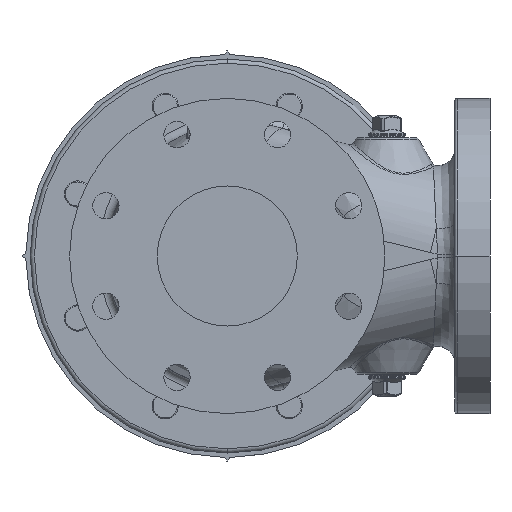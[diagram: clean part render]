
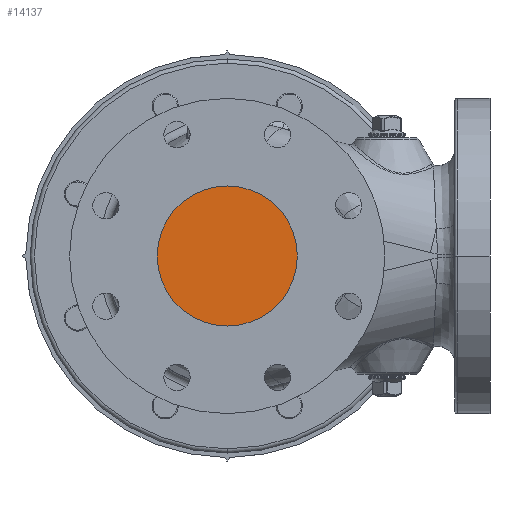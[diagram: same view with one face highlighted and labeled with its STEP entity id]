
A CAD part, front view. The second image highlights one B-rep face of the part: STEP entity #14137.
In plain terms, the highlighted planar face has unit normal (0, -1, 0).
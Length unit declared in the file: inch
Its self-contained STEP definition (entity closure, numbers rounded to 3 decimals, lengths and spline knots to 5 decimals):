
#432 = EDGE_LOOP ( 'NONE', ( #4457, #3206 ) ) ;
#498 = DIRECTION ( 'NONE',  ( 0., -1., 0. ) ) ;
#600 = DIRECTION ( 'NONE',  ( 0., 0., -1. ) ) ;
#1706 = CARTESIAN_POINT ( 'NONE',  ( 0., -1.75, -2. ) ) ;
#3206 = ORIENTED_EDGE ( 'NONE', *, *, #9622, .T. ) ;
#3632 = CARTESIAN_POINT ( 'NONE',  ( 0., -1.75, 0. ) ) ;
#4457 = ORIENTED_EDGE ( 'NONE', *, *, #21317, .T. ) ;
#5916 = DIRECTION ( 'NONE',  ( 0., 0., -1. ) ) ;
#9254 = AXIS2_PLACEMENT_3D ( 'NONE', #3632, #19486, #5916 ) ;
#9381 = VERTEX_POINT ( 'NONE', #1706 ) ;
#9622 = EDGE_CURVE ( 'NONE', #19431, #9381, #21375, .T. ) ;
#9939 = CARTESIAN_POINT ( 'NONE',  ( 0., -1.75, 2. ) ) ;
#12846 = DIRECTION ( 'NONE',  ( 0., -1., 0. ) ) ;
#14137 = ADVANCED_FACE ( 'NONE', ( #24116 ), #27694, .T. ) ;
#14451 = AXIS2_PLACEMENT_3D ( 'NONE', #25440, #498, #600 ) ;
#18031 = CIRCLE ( 'NONE', #9254, 2. ) ;
#19431 = VERTEX_POINT ( 'NONE', #9939 ) ;
#19486 = DIRECTION ( 'NONE',  ( 0., -1., 0. ) ) ;
#21317 = EDGE_CURVE ( 'NONE', #9381, #19431, #18031, .T. ) ;
#21375 = CIRCLE ( 'NONE', #26480, 2. ) ;
#24116 = FACE_OUTER_BOUND ( 'NONE', #432, .T. ) ;
#25440 = CARTESIAN_POINT ( 'NONE',  ( 0., -1.75, 0. ) ) ;
#26410 = CARTESIAN_POINT ( 'NONE',  ( 0., -1.75, 0. ) ) ;
#26480 = AXIS2_PLACEMENT_3D ( 'NONE', #26410, #12846, #28675 ) ;
#27694 = PLANE ( 'NONE',  #14451 ) ;
#28675 = DIRECTION ( 'NONE',  ( 0., 0., -1. ) ) ;
